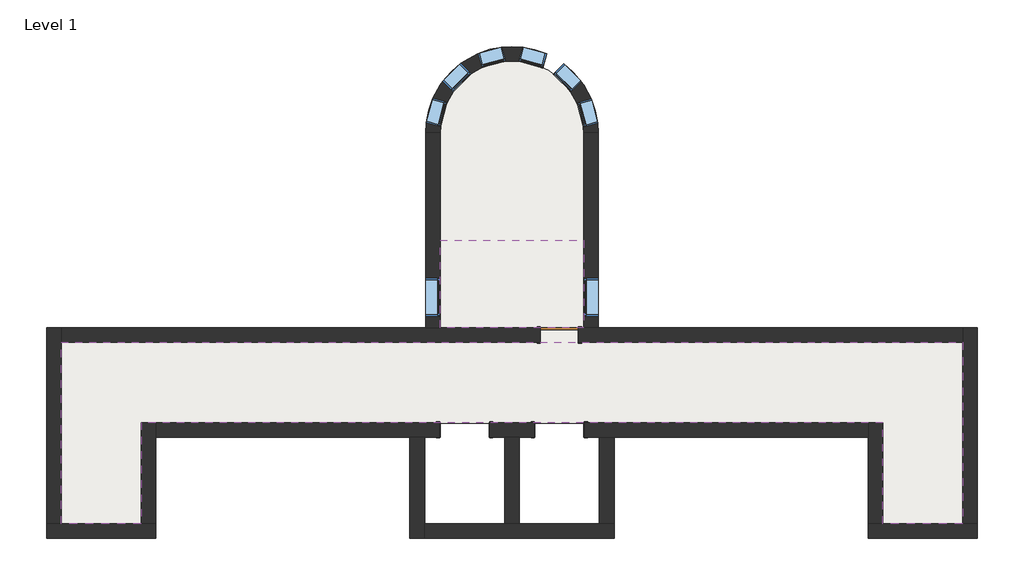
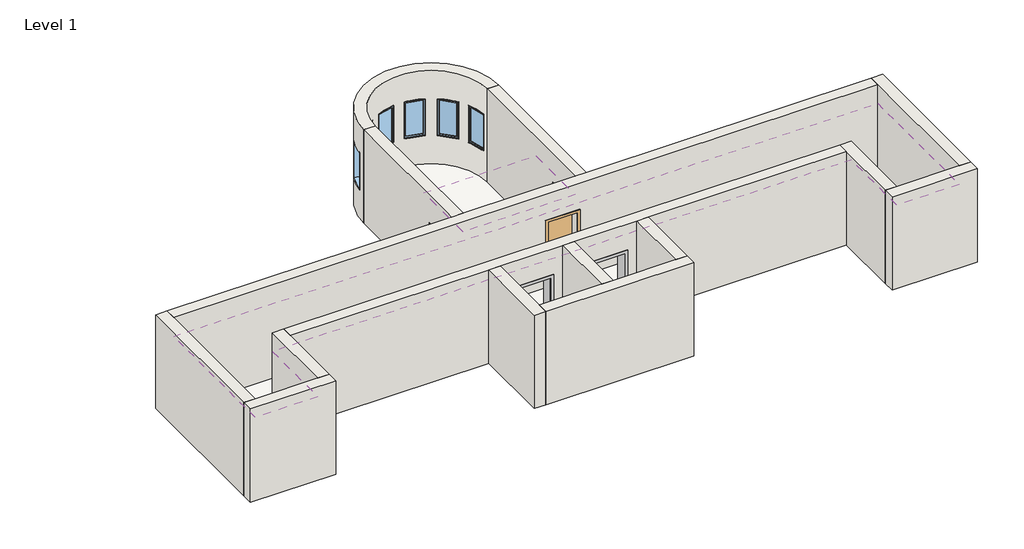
# One storey: 15 walls, 8 windows, 2 coverings, 2 proxies, 1 door, 1 slab.
"""IFC4 building model written with IfcOpenShell, lengths in millimetres."""

from ifc_helpers import new_model, si_unit, point, frame, frame_2d, origin, origin_with_axes, place, context, project, spatial, polyline, circle_curve, trimmed, segment, composite_curve, outline, extrude, faceted_brep, transform, mapped, element, save
from ifc_brep_helpers import plane_surface, cylinder_surface, revolved_surface, advanced_brep
from components import proxy_c3589814, door_632be17d, window_60baf983, window_15c49d37

model = new_model("IFC4")

# Units and contexts
model_context = context("Model", 3, world=origin())
ifc_project = project(units=[si_unit("LENGTHUNIT", "METRE", prefix="MILLI")], contexts=[model_context])

# Site, building, storey
site = spatial("IfcSite", under=ifc_project)
building = spatial("IfcBuilding", under=site)
storey = spatial("IfcBuildingStorey", under=building, Name="Level 1", Elevation=0.0)

# Proxies
placement = place(None, origin())
proxy_shape = proxy_c3589814(model_context)
element("IfcBuildingElementProxy", 1, Name="Opening-Cased : 48\" x 84\"", ObjectType="Opening-Cased : 48\" x 84\"", at=placement, inside=storey, context=model_context, shape_type="MappedRepresentation", body=[
    mapped(proxy_shape, transform((-7396.8036255, 2429.9758812, 0.0), x_axis=(-1.0, 0.0, 0.0), y_axis=(0.0, -1.0, 0.0), z_axis=(0.0, 0.0, 1.0))),
])
element("IfcBuildingElementProxy", 2, Name="Opening-Cased : 48\" x 84\"", ObjectType="Opening-Cased : 48\" x 84\"", at=placement, inside=storey, context=model_context, shape_type="MappedRepresentation", body=[
    mapped(proxy_shape, transform((-5110.8036255, 2429.9758812, 0.0), x_axis=(-1.0, 0.0, 0.0), y_axis=(0.0, -1.0, 0.0), z_axis=(0.0, 0.0, 1.0))),
])

# Coverings
element("IfcCovering", 3, ObjectType="GWB on Mtl. Stud", at=placement, inside=storey, context=model_context, shape_type="SweptSolid", body=[
    extrude(outline(polyline([(-4516.8274687, 4892.1883812), (-7974.4024687, 4892.1883812), (-7974.4024687, 7001.9758812), (-4516.8274687, 7001.9758812), (-4516.8274687, 4892.1883812)])), frame((0.0, 0.0, 2438.4), z_axis=(0.0, 0.0, 1.0), x_axis=(1.0, 0.0, 0.0)), (0.0, 0.0, 1.0), 107.95),
])
element("IfcCovering", 4, ObjectType="GWB on Mtl. Stud", at=placement, inside=storey, context=model_context, shape_type="SweptSolid", body=[
    extrude(outline(polyline([(2693.5975313, 167.7883812), (2693.5975313, 2606.1883812), (-15184.8274687, 2606.1883812), (-15184.8274687, 167.7883812), (-17118.4024687, 167.7883812), (-17118.4024687, 4539.7633812), (4627.1725313, 4539.7633812), (4627.1725313, 167.7883812), (2693.5975313, 167.7883812)])), frame((0.0, 0.0, 2438.4), z_axis=(0.0, 0.0, 1.0), x_axis=(1.0, 0.0, 0.0)), (0.0, 0.0, 1.0), 107.95),
])

# Door
door_shape = door_632be17d(model_context)
element("IfcDoor", 5, ObjectType="Single-Flush : 36\" x 84\"", at=placement, inside=storey, context=model_context, shape_type="MappedRepresentation", body=[
    mapped(door_shape, transform((-5102.6149687, 4715.9758812, 0.0), x_axis=(1.0, 0.0, 0.0), y_axis=(0.0, 1.0, 0.0), z_axis=(0.0, 0.0, 1.0))),
])

# Slab
element("IfcSlab", 6, ObjectType="LW Concrete on Metal Deck", at=placement, inside=storey, context=model_context, shape_type="SweptSolid", body=[
    extrude(outline(composite_curve([segment(polyline([(-4504.1274687, 9592.7758812), (-4504.1274687, 4552.4633812), (4627.1725313, 4552.4633812), (4627.1725313, 167.7883812), (2680.8975313, 167.7883812), (2680.8975313, 2593.4883812), (-15172.1274687, 2593.4883812), (-15172.1274687, 167.7883812), (-17118.4024687, 167.7883812), (-17118.4024687, 4552.4633812), (-7987.1024687, 4552.4633812), (-7987.1024687, 9592.7758812)]), True, "CONTINUOUS"), segment(trimmed(circle_curve(frame_2d((-6245.6149687, 9592.7758812)), 1741.4875), [point((-7987.1024687, 9592.7758812))], [point((-4504.1274687, 9592.7758812))], False, "CARTESIAN"), True, "CONTINUOUS")], self_intersect=False)), frame((0.0, 0.0, -104.775), z_axis=(0.0, 0.0, 1.0), x_axis=(1.0, 0.0, 0.0)), (0.0, 0.0, 1.0), 104.775),
])

# Walls
element("IfcWall", 7, ObjectType="Exterior - Brick on Mtl. Stud", at=placement, inside=storey, context=model_context, shape_type="Brep", body=[
    faceted_brep([(-8707.8274687, 2253.7633812, 0.0), (-8707.8274687, -184.6366188, 0.0), (-8707.8274687, -184.6366188, 3048.0), (-8707.8274687, 2253.7633812, 3048.0), (-8355.4024687, 2253.7633812, 0.0), (-8355.4024687, 2253.7633812, 3048.0), (-8355.4024687, 167.7883812, 3048.0), (-8355.4024687, -184.6366188, 3048.0), (-8355.4024687, -184.6366188, 0.0), (-8355.4024687, 167.7883812, 0.0)], [[[0, 1, 2, 3]], [[4, 5, 6, 7, 8, 9]], [[1, 0, 4, 9, 8]], [[3, 2, 7, 6, 5]], [[2, 1, 8, 7]], [[0, 3, 5, 4]]]),
])
element("IfcWall", 8, ObjectType="Exterior - Brick on Mtl. Stud", at=placement, inside=storey, context=model_context, shape_type="Brep", body=[
    faceted_brep([(-8355.4024687, -184.6366188, 0.0), (-3783.4024687, -184.6366188, 0.0), (-3783.4024687, -184.6366188, 3048.0), (-8355.4024687, -184.6366188, 3048.0), (-8355.4024687, 167.7883812, 0.0), (-8355.4024687, 167.7883812, 3048.0), (-6421.8274687, 167.7883812, 3048.0), (-6069.4024687, 167.7883812, 3048.0), (-4135.8274687, 167.7883812, 3048.0), (-3783.4024687, 167.7883812, 3048.0), (-3783.4024687, 167.7883812, 0.0), (-4135.8274687, 167.7883812, 0.0), (-6069.4024687, 167.7883812, 0.0), (-6421.8274687, 167.7883812, 0.0)], [[[0, 1, 2, 3]], [[4, 5, 6, 7, 8, 9, 10, 11, 12, 13]], [[1, 0, 4, 13, 12, 11, 10]], [[3, 2, 9, 8, 7, 6, 5]], [[2, 1, 10, 9]], [[0, 3, 5, 4]]]),
])
element("IfcWall", 9, ObjectType="Exterior - Brick on Mtl. Stud", at=placement, inside=storey, context=model_context, shape_type="SweptSolid", body=[
    extrude(outline(polyline([(-3783.4024687, 2253.7633812), (-3783.4024687, 167.7883812), (-4135.8274687, 167.7883812), (-4135.8274687, 2253.7633812), (-3783.4024687, 2253.7633812)])), origin_with_axes(), (0.0, 0.0, 1.0), 3048.0),
])
element("IfcWall", 10, ObjectType="Exterior - Brick on Mtl. Stud", at=placement, inside=storey, context=model_context, shape_type="Brep", body=[
    faceted_brep([(-6779.0149687, 2253.7633812, 0.0), (-6421.8274687, 2253.7633812, 0.0), (-6069.4024687, 2253.7633812, 0.0), (-5712.2149687, 2253.7633812, 0.0), (-5712.2149687, 2253.7633812, 2133.6), (-4493.0149687, 2253.7633812, 2133.6), (-4493.0149687, 2253.7633812, 0.0), (-4135.8274687, 2253.7633812, 0.0), (-3783.4024687, 2253.7633812, 0.0), (2341.1725313, 2253.7633812, 0.0), (2341.1725313, 2253.7633812, 3048.0), (-3783.4024687, 2253.7633812, 3048.0), (-4135.8274687, 2253.7633812, 3048.0), (-6069.4024687, 2253.7633812, 3048.0), (-6421.8274687, 2253.7633812, 3048.0), (-8355.4024687, 2253.7633812, 3048.0), (-8707.8274687, 2253.7633812, 3048.0), (-14832.4024687, 2253.7633812, 3048.0), (-14832.4024687, 2253.7633812, 0.0), (-8707.8274687, 2253.7633812, 0.0), (-8355.4024687, 2253.7633812, 0.0), (-7998.2149687, 2253.7633812, 0.0), (-7998.2149687, 2253.7633812, 2133.6), (-6779.0149687, 2253.7633812, 2133.6), (-5712.2149687, 2606.1883812, 2133.6), (-5712.2149687, 2606.1883812, 0.0), (-6779.0149687, 2606.1883812, 0.0), (-6779.0149687, 2606.1883812, 2133.6), (-7998.2149687, 2606.1883812, 2133.6), (-7998.2149687, 2606.1883812, 0.0), (-14832.4024687, 2606.1883812, 0.0), (-14832.4024687, 2606.1883812, 3048.0), (2341.1725313, 2606.1883812, 3048.0), (2341.1725313, 2606.1883812, 0.0), (-4493.0149687, 2606.1883812, 0.0), (-4493.0149687, 2606.1883812, 2133.6)], [[[0, 1, 2, 3, 4, 5, 6, 7, 8, 9, 10, 11, 12, 13, 14, 15, 16, 17, 18, 19, 20, 21, 22, 23]], [[24, 25, 26, 27, 28, 29, 30, 31, 32, 33, 34, 35]], [[30, 29, 21, 20, 19, 18]], [[26, 25, 3, 2, 1, 0]], [[34, 33, 9, 8, 7, 6]], [[17, 16, 15, 14, 13, 12, 11, 10, 32, 31]], [[10, 9, 33, 32]], [[18, 17, 31, 30]], [[0, 23, 27, 26]], [[22, 21, 29, 28]], [[23, 22, 28, 27]], [[6, 5, 35, 34]], [[4, 3, 25, 24]], [[5, 4, 24, 35]]]),
])
element("IfcWall", 11, ObjectType="Exterior - Brick on Mtl. Stud", at=placement, inside=storey, context=model_context, shape_type="SweptSolid", body=[
    extrude(outline(polyline([(9592.7758812, 0.0), (4892.1883812, 0.0), (4892.1883812, 3048.0), (9592.7758812, 3048.0), (9592.7758812, 0.0)]), holes=[polyline([(5173.1758812, 2133.6), (5173.1758812, 914.4), (6087.5758812, 914.4), (6087.5758812, 2133.6), (5173.1758812, 2133.6)])]), frame((-8326.8274687, 0.0, 0.0), z_axis=(1.0, 0.0, 0.0), x_axis=(0.0, 1.0, 0.0)), (0.0, 0.0, 1.0), 352.425),
])
element("IfcWall", 12, ObjectType="Exterior - Brick on Mtl. Stud", at=placement, inside=storey, context=model_context, shape_type="Brep", body=[
    faceted_brep([(4627.1725313, 4892.1883812, 0.0), (-4164.4024687, 4892.1883812, 0.0), (-4516.8274687, 4892.1883812, 0.0), (-4645.4149687, 4892.1883812, 0.0), (-4645.4149687, 4892.1883812, 2133.6), (-5559.8149687, 4892.1883812, 2133.6), (-5559.8149687, 4892.1883812, 0.0), (-7974.4024687, 4892.1883812, 0.0), (-8326.8274687, 4892.1883812, 0.0), (-17118.4024687, 4892.1883812, 0.0), (-17118.4024687, 4892.1883812, 3048.0), (-8326.8274687, 4892.1883812, 3048.0), (-7974.4024687, 4892.1883812, 3048.0), (-4516.8274687, 4892.1883812, 3048.0), (-4164.4024687, 4892.1883812, 3048.0), (4627.1725313, 4892.1883812, 3048.0), (-4645.4149687, 4539.7633812, 2133.6), (-4645.4149687, 4539.7633812, 0.0), (4627.1725313, 4539.7633812, 0.0), (4627.1725313, 4539.7633812, 3048.0), (-17118.4024687, 4539.7633812, 3048.0), (-17118.4024687, 4539.7633812, 0.0), (-5559.8149687, 4539.7633812, 0.0), (-5559.8149687, 4539.7633812, 2133.6)], [[[0, 1, 2, 3, 4, 5, 6, 7, 8, 9, 10, 11, 12, 13, 14, 15]], [[16, 17, 18, 19, 20, 21, 22, 23]], [[18, 17, 3, 2, 1, 0]], [[22, 21, 9, 8, 7, 6]], [[15, 14, 13, 12, 11, 10, 20, 19]], [[0, 15, 19, 18]], [[10, 9, 21, 20]], [[4, 3, 17, 16]], [[5, 4, 16, 23]], [[6, 5, 23, 22]]]),
])
element("IfcWall", 13, ObjectType="Exterior - Brick on Mtl. Stud", at=placement, inside=storey, context=model_context, shape_type="SweptSolid", body=[
    extrude(outline(polyline([(4892.1883812, 0.0), (4892.1883812, 3048.0), (9592.7758812, 3048.0), (9592.7758812, 0.0), (4892.1883812, 0.0)]), holes=[polyline([(6087.5758812, 2133.6), (5173.1758812, 2133.6), (5173.1758812, 914.4), (6087.5758812, 914.4), (6087.5758812, 2133.6)])]), frame((-4516.8274687, 0.0, 0.0), z_axis=(1.0, 0.0, 0.0), x_axis=(0.0, 1.0, 0.0)), (0.0, 0.0, 1.0), 352.425),
])
element("IfcWall", 14, ObjectType="Exterior - Brick on Mtl. Stud", at=placement, inside=storey, context=model_context, shape_type="AdvancedBrep", body=[
    advanced_brep(
    [(-4164.4024687, 9592.7758812, 3048.0), (-8326.8274687, 9592.7758812, 3048.0), (-7974.4024687, 9592.7758812, 3048.0), (-4516.8274687, 9592.7758812, 3048.0), (-8326.8274687, 9592.7758812, 0.0), (-4164.4024687, 9592.7758812, 0.0), (-4516.8274687, 9592.7758812, 0.0), (-7974.4024687, 9592.7758812, 0.0), (-8312.3878938, 9837.5107303, 914.4), (-8152.818084, 10425.8555575, 914.4), (-8152.818084, 10425.8555575, 2133.6), (-8312.3878938, 9837.5107303, 2133.6), (-7913.1254012, 10838.1089402, 2133.6), (-7913.1254012, 10838.1089402, 914.4), (-7480.7614786, 11267.8456019, 914.4), (-7480.7614786, 11267.8456019, 2133.6), (-7067.0548348, 11505.0211627, 2133.6), (-7067.0548348, 11505.0211627, 914.4), (-6477.7483633, 11661.0020674, 914.4), (-6477.7483633, 11661.0020674, 2133.6), (-6000.8801197, 11659.5488063, 2133.6), (-6000.8801197, 11659.5488063, 914.4), (-5412.5352924, 11499.9789965, 914.4), (-5412.5352924, 11499.9789965, 2133.6), (-5000.2819097, 11260.2863136, 2133.6), (-5000.2819097, 11260.2863136, 914.4), (-4570.545248, 10827.922391, 914.4), (-4570.545248, 10827.922391, 2133.6), (-4333.3696872, 10414.2157472, 2133.6), (-4333.3696872, 10414.2157472, 914.4), (-4177.3887825, 9824.9092757, 914.4), (-4177.3887825, 9824.9092757, 2133.6), (-7808.2019473, 10332.3893982, 914.4), (-7967.7717571, 9744.0445709, 914.4), (-7967.7717571, 9744.0445709, 2133.6), (-7808.2019473, 10332.3893982, 2133.6), (-7661.4121519, 10584.8568034, 914.4), (-7661.4121519, 10584.8568034, 2133.6), (-7229.0482293, 11014.5934652, 2133.6), (-7229.0482293, 11014.5934652, 914.4), (-6975.6908348, 11159.8417541, 2133.6), (-6386.3843633, 11315.8226588, 2133.6), (-6386.3843633, 11315.8226588, 914.4), (-6975.6908348, 11159.8417541, 914.4), (-6094.346279, 11314.9326695, 2133.6), (-5506.0014517, 11155.3628598, 2133.6), (-5506.0014517, 11155.3628598, 914.4), (-6094.346279, 11314.9326695, 914.4), (-5253.5340465, 11008.5730643, 2133.6), (-4823.7973847, 10576.2091417, 2133.6), (-4823.7973847, 10576.2091417, 914.4), (-5253.5340465, 11008.5730643, 914.4), (-4678.5490959, 10322.8517473, 2133.6), (-4522.5681912, 9733.5452757, 2133.6), (-4522.5681912, 9733.5452757, 914.4), (-4678.5490959, 10322.8517473, 914.4)],
    [
        (0, 1, circle_curve(frame((-6245.6149687, 9592.7758812, 3048.0), z_axis=(0.0, 0.0, 1.0), x_axis=(1.0, 0.0, 0.0)), 2081.2125)),
        (1, 2),
        (2, 3, circle_curve(frame((-6245.6149687, 9592.7758812, 3048.0), z_axis=(0.0, 0.0, -1.0), x_axis=(1.0, 0.0, 0.0)), 1728.7875)),
        (3, 0),
        (4, 5, circle_curve(frame((-6245.6149687, 9592.7758812, 0.0), z_axis=(0.0, 0.0, -1.0), x_axis=(1.0, 0.0, 0.0)), 2081.2125)),
        (5, 6),
        (6, 7, circle_curve(frame((-6245.6149687, 9592.7758812, 0.0), z_axis=(0.0, 0.0, 1.0), x_axis=(1.0, 0.0, 0.0)), 1728.7875)),
        (7, 4),
        (0, 5),
        (4, 1),
        (8, 9, circle_curve(frame((-6245.6149687, 9592.7758812, 914.4), z_axis=(0.0, 0.0, -1.0), x_axis=(1.0, 0.0, 0.0)), 2081.2125)),
        (9, 10),
        (10, 11, circle_curve(frame((-6245.6149687, 9592.7758812, 2133.6), z_axis=(0.0, 0.0, 1.0), x_axis=(1.0, 0.0, 0.0)), 2081.2125)),
        (11, 8),
        (12, 13),
        (13, 14, circle_curve(frame((-6245.6149687, 9592.7758812, 914.4), z_axis=(0.0, 0.0, -1.0), x_axis=(1.0, 0.0, 0.0)), 2081.2125)),
        (14, 15),
        (15, 12, circle_curve(frame((-6245.6149687, 9592.7758812, 2133.6), z_axis=(0.0, 0.0, 1.0), x_axis=(1.0, 0.0, 0.0)), 2081.2125)),
        (16, 17),
        (17, 18, circle_curve(frame((-6245.6149687, 9592.7758812, 914.4), z_axis=(0.0, 0.0, -1.0), x_axis=(1.0, 0.0, 0.0)), 2081.2125)),
        (18, 19),
        (19, 16, circle_curve(frame((-6245.6149687, 9592.7758812, 2133.6), z_axis=(0.0, 0.0, 1.0), x_axis=(1.0, 0.0, 0.0)), 2081.2125)),
        (20, 21),
        (21, 22, circle_curve(frame((-6245.6149687, 9592.7758812, 914.4), z_axis=(0.0, 0.0, -1.0), x_axis=(1.0, 0.0, 0.0)), 2081.2125)),
        (22, 23),
        (23, 20, circle_curve(frame((-6245.6149687, 9592.7758812, 2133.6), z_axis=(0.0, 0.0, 1.0), x_axis=(1.0, 0.0, 0.0)), 2081.2125)),
        (24, 25),
        (25, 26, circle_curve(frame((-6245.6149687, 9592.7758812, 914.4), z_axis=(0.0, 0.0, -1.0), x_axis=(1.0, 0.0, 0.0)), 2081.2125)),
        (26, 27),
        (27, 24, circle_curve(frame((-6245.6149687, 9592.7758812, 2133.6), z_axis=(0.0, 0.0, 1.0), x_axis=(1.0, 0.0, 0.0)), 2081.2125)),
        (28, 29),
        (29, 30, circle_curve(frame((-6245.6149687, 9592.7758812, 914.4), z_axis=(0.0, 0.0, -1.0), x_axis=(1.0, 0.0, 0.0)), 2081.2125)),
        (30, 31),
        (31, 28, circle_curve(frame((-6245.6149687, 9592.7758812, 2133.6), z_axis=(0.0, 0.0, 1.0), x_axis=(1.0, 0.0, 0.0)), 2081.2125)),
        (7, 2),
        (6, 3),
        (32, 33, circle_curve(frame((-6245.6149687, 9592.7758812, 914.4), z_axis=(0.0, 0.0, 1.0), x_axis=(1.0, 0.0, 0.0)), 1728.7875)),
        (33, 34),
        (34, 35, circle_curve(frame((-6245.6149687, 9592.7758812, 2133.6), z_axis=(0.0, 0.0, -1.0), x_axis=(1.0, 0.0, 0.0)), 1728.7875)),
        (35, 32),
        (36, 37),
        (37, 38, circle_curve(frame((-6245.6149687, 9592.7758812, 2133.6), z_axis=(0.0, 0.0, -1.0), x_axis=(1.0, 0.0, 0.0)), 1728.7875)),
        (38, 39),
        (39, 36, circle_curve(frame((-6245.6149687, 9592.7758812, 914.4), z_axis=(0.0, 0.0, 1.0), x_axis=(1.0, 0.0, 0.0)), 1728.7875)),
        (40, 41, circle_curve(frame((-6245.6149687, 9592.7758812, 2133.6), z_axis=(0.0, 0.0, -1.0), x_axis=(1.0, 0.0, 0.0)), 1728.7875)),
        (41, 42),
        (42, 43, circle_curve(frame((-6245.6149687, 9592.7758812, 914.4), z_axis=(0.0, 0.0, 1.0), x_axis=(1.0, 0.0, 0.0)), 1728.7875)),
        (43, 40),
        (44, 45, circle_curve(frame((-6245.6149687, 9592.7758812, 2133.6), z_axis=(0.0, 0.0, -1.0), x_axis=(1.0, 0.0, 0.0)), 1728.7875)),
        (45, 46),
        (46, 47, circle_curve(frame((-6245.6149687, 9592.7758812, 914.4), z_axis=(0.0, 0.0, 1.0), x_axis=(1.0, 0.0, 0.0)), 1728.7875)),
        (47, 44),
        (48, 49, circle_curve(frame((-6245.6149687, 9592.7758812, 2133.6), z_axis=(0.0, 0.0, -1.0), x_axis=(1.0, 0.0, 0.0)), 1728.7875)),
        (49, 50),
        (50, 51, circle_curve(frame((-6245.6149687, 9592.7758812, 914.4), z_axis=(0.0, 0.0, 1.0), x_axis=(1.0, 0.0, 0.0)), 1728.7875)),
        (51, 48),
        (52, 53, circle_curve(frame((-6245.6149687, 9592.7758812, 2133.6), z_axis=(0.0, 0.0, -1.0), x_axis=(1.0, 0.0, 0.0)), 1728.7875)),
        (53, 54),
        (54, 55, circle_curve(frame((-6245.6149687, 9592.7758812, 914.4), z_axis=(0.0, 0.0, 1.0), x_axis=(1.0, 0.0, 0.0)), 1728.7875)),
        (55, 52),
        (33, 8),
        (11, 34),
        (32, 9),
        (35, 10),
        (12, 37),
        (36, 13),
        (39, 14),
        (38, 15),
        (16, 40),
        (43, 17),
        (42, 18),
        (41, 19),
        (20, 44),
        (47, 21),
        (46, 22),
        (45, 23),
        (24, 48),
        (51, 25),
        (50, 26),
        (49, 27),
        (28, 52),
        (55, 29),
        (54, 30),
        (53, 31),
    ],
    [
        plane_surface(frame((-4164.4024687, 9592.7758812, 3048.0), z_axis=(0.0, 0.0, 1.0), x_axis=(0.0, 1.0, 0.0))),
        plane_surface(frame((-4164.4024687, 9592.7758812, 0.0), z_axis=(0.0, 0.0, -1.0), x_axis=(0.0, -1.0, 0.0))),
        cylinder_surface(frame((-6245.6149687, 9592.7758812, 0.0), z_axis=(0.0, 0.0, 1.0), x_axis=(1.0, 0.0, 0.0)), 2081.2125),
        plane_surface(frame((-8326.8274687, 9592.7758812, 3048.0), z_axis=(0.0, -1.0, 0.0), x_axis=(0.0, 0.0, -1.0))),
        revolved_surface(polyline([(-4516.827468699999, 9592.7758812, 0.0), (-4516.827468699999, 9592.7758812, 3048.0)]), (-6245.6149687, 9592.7758812, 0.0), (0.0, 0.0, -1.0)),
        plane_surface(frame((-4516.8274687, 9592.7758812, 3048.0), z_axis=(0.0, -1.0, 0.0), x_axis=(0.0, 0.0, -1.0))),
        plane_surface(frame((-6841.5258256, 9438.5862058, 2133.6), z_axis=(0.26176149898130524, 0.9651325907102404, 0.0), x_axis=(-0.9651325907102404, 0.26176149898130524, 0.0))),
        plane_surface(frame((-6841.5258256, 9438.5862058, 914.4), z_axis=(0.0, 0.0, 1.0000000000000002), x_axis=(-0.9651325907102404, 0.26176149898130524, 0.0))),
        plane_surface(frame((-6681.9560158, 10026.9310331, 914.4), z_axis=(-0.2617614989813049, -0.9651325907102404, 0.0), x_axis=(-0.9651325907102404, 0.2617614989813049, 0.0))),
        plane_surface(frame((-6681.9560158, 10026.9310331, 2133.6), z_axis=(0.0, 0.0, -1.0), x_axis=(-0.9651325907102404, 0.2617614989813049, 0.0))),
        plane_surface(frame((-6838.7837468, 9757.1991337, 2133.6), z_axis=(0.7092584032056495, 0.70494859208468, 0.0), x_axis=(-0.70494859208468, 0.7092584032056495, 0.0))),
        plane_surface(frame((-6838.7837468, 9757.1991337, 914.4), z_axis=(0.0, 0.0, 1.0), x_axis=(-0.7049485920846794, 0.7092584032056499, 0.0))),
        plane_surface(frame((-6406.4198242, 10186.9357955, 914.4), z_axis=(-0.7092584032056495, -0.70494859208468, 0.0), x_axis=(-0.70494859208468, 0.7092584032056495, 0.0))),
        plane_surface(frame((-6406.4198242, 10186.9357955, 2133.6), z_axis=(0.0, 0.0, -1.0), x_axis=(-0.70494859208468, 0.7092584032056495, 0.0))),
        plane_surface(frame((-7067.0548348, 11505.0211627, 2133.6), z_axis=(0.9667100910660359, 0.25587418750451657, 0.0), x_axis=(0.25587418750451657, -0.9667100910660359, 0.0))),
        plane_surface(frame((-7067.0548348, 11505.0211627, 914.4), z_axis=(0.0, 0.0, 1.0), x_axis=(0.2558741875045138, -0.9667100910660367, 0.0))),
        plane_surface(frame((-6477.7483633, 11661.0020674, 914.4), z_axis=(-0.9667100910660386, -0.2558741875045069, 0.0), x_axis=(0.2558741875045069, -0.9667100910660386, 0.0))),
        plane_surface(frame((-6477.7483633, 11661.0020674, 2133.6), z_axis=(0.0, 0.0, -1.0000000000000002), x_axis=(0.2558741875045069, -0.9667100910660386, 0.0))),
        plane_surface(frame((-6000.8801197, 11659.5488063, 2133.6), z_axis=(0.9651325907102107, -0.2617614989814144, 0.0), x_axis=(-0.2617614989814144, -0.9651325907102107, 0.0))),
        plane_surface(frame((-6000.8801197, 11659.5488063, 914.4), z_axis=(0.0, 0.0, 1.0000000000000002), x_axis=(-0.26176149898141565, -0.9651325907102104, 0.0))),
        plane_surface(frame((-5412.5352924, 11499.9789965, 914.4), z_axis=(-0.9651325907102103, 0.26176149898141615, 0.0), x_axis=(-0.26176149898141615, -0.9651325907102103, 0.0))),
        plane_surface(frame((-5412.5352924, 11499.9789965, 2133.6), z_axis=(0.0, 0.0, -1.0), x_axis=(-0.26176149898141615, -0.9651325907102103, 0.0))),
        plane_surface(frame((-5000.2819097, 11260.2863136, 2133.6), z_axis=(0.7049485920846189, -0.7092584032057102, 0.0), x_axis=(-0.7092584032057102, -0.7049485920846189, 0.0))),
        plane_surface(frame((-5000.2819097, 11260.2863136, 914.4), z_axis=(0.0, 0.0, 1.0000000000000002), x_axis=(-0.7092584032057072, -0.7049485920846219, 0.0))),
        plane_surface(frame((-4570.545248, 10827.922391, 914.4), z_axis=(-0.7049485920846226, 0.7092584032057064, 0.0), x_axis=(-0.7092584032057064, -0.7049485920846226, 0.0))),
        plane_surface(frame((-4570.545248, 10827.922391, 2133.6), z_axis=(0.0, 0.0, -1.0), x_axis=(-0.7092584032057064, -0.7049485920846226, 0.0))),
        plane_surface(frame((-4333.3696872, 10414.2157472, 2133.6), z_axis=(0.2558741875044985, -0.9667100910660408, 0.0), x_axis=(-0.9667100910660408, -0.2558741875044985, 0.0))),
        plane_surface(frame((-4333.3696872, 10414.2157472, 914.4), z_axis=(0.0, 0.0, 1.0), x_axis=(-0.9667100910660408, -0.2558741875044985, 0.0))),
        plane_surface(frame((-4177.3887825, 9824.9092757, 914.4), z_axis=(-0.2558741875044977, 0.966710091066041, 0.0), x_axis=(-0.966710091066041, -0.2558741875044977, 0.0))),
        plane_surface(frame((-4177.3887825, 9824.9092757, 2133.6), z_axis=(0.0, 0.0, -1.0), x_axis=(-0.966710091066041, -0.2558741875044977, 0.0))),
    ],
    [
        (0, [[1, 2, 3, 4]]),
        (1, [[5, 6, 7, 8]]),
        (2, [[-1, 9, -5, 10], [11, 12, 13, 14], [15, 16, 17, 18], [19, 20, 21, 22], [23, 24, 25, 26], [27, 28, 29, 30], [31, 32, 33, 34]]),
        (3, [[-2, -10, -8, 35]]),
        (4, [[-3, -35, -7, 36], [37, 38, 39, 40], [41, 42, 43, 44], [45, 46, 47, 48], [49, 50, 51, 52], [53, 54, 55, 56], [57, 58, 59, 60]]),
        (5, [[-4, -36, -6, -9]]),
        (6, [[61, -14, 62, -38]]),
        (7, [[-61, -37, 63, -11]]),
        (8, [[-63, -40, 64, -12]]),
        (9, [[-64, -39, -62, -13]]),
        (10, [[65, -41, 66, -15]]),
        (11, [[-66, -44, 67, -16]]),
        (12, [[-67, -43, 68, -17]]),
        (13, [[-65, -18, -68, -42]]),
        (14, [[-19, 69, -48, 70]]),
        (15, [[-20, -70, -47, 71]]),
        (16, [[-21, -71, -46, 72]]),
        (17, [[-22, -72, -45, -69]]),
        (18, [[-23, 73, -52, 74]]),
        (19, [[-24, -74, -51, 75]]),
        (20, [[-25, -75, -50, 76]]),
        (21, [[-26, -76, -49, -73]]),
        (22, [[-27, 77, -56, 78]]),
        (23, [[-28, -78, -55, 79]]),
        (24, [[-29, -79, -54, 80]]),
        (25, [[-30, -80, -53, -77]]),
        (26, [[-31, 81, -60, 82]]),
        (27, [[-32, -82, -59, 83]]),
        (28, [[-33, -83, -58, 84]]),
        (29, [[-34, -84, -57, -81]]),
    ],
),
])
element("IfcWall", 15, ObjectType="Exterior - Brick on Mtl. Stud", at=placement, inside=storey, context=model_context, shape_type="SweptSolid", body=[
    extrude(outline(polyline([(-6069.4024687, 2253.7633812), (-6069.4024687, 167.7883812), (-6421.8274687, 167.7883812), (-6421.8274687, 2253.7633812), (-6069.4024687, 2253.7633812)])), origin_with_axes(), (0.0, 0.0, 1.0), 3048.0),
])
element("IfcWall", 16, ObjectType="Exterior - Brick on Mtl. Stud", at=placement, inside=storey, context=model_context, shape_type="Brep", body=[
    faceted_brep([(4979.5975313, 167.7883812, 0.0), (4627.1725313, 167.7883812, 0.0), (2693.5975313, 167.7883812, 0.0), (2341.1725313, 167.7883812, 0.0), (2341.1725313, 167.7883812, 3048.0), (2693.5975313, 167.7883812, 3048.0), (4627.1725313, 167.7883812, 3048.0), (4979.5975313, 167.7883812, 3048.0), (4979.5975313, -184.6366188, 0.0), (4979.5975313, -184.6366188, 3048.0), (2341.1725313, -184.6366188, 3048.0), (2341.1725313, -184.6366188, 0.0)], [[[0, 1, 2, 3, 4, 5, 6, 7]], [[8, 9, 10, 11]], [[3, 2, 1, 0, 8, 11]], [[7, 6, 5, 4, 10, 9]], [[4, 3, 11, 10]], [[0, 7, 9, 8]]]),
])
element("IfcWall", 17, ObjectType="Exterior - Brick on Mtl. Stud", at=placement, inside=storey, context=model_context, shape_type="Brep", body=[
    faceted_brep([(2341.1725313, 2606.1883812, 0.0), (2341.1725313, 2253.7633812, 0.0), (2341.1725313, 167.7883812, 0.0), (2341.1725313, 167.7883812, 3048.0), (2341.1725313, 2253.7633812, 3048.0), (2341.1725313, 2606.1883812, 3048.0), (2693.5975313, 2606.1883812, 0.0), (2693.5975313, 2606.1883812, 3048.0), (2693.5975313, 167.7883812, 3048.0), (2693.5975313, 167.7883812, 0.0)], [[[0, 1, 2, 3, 4, 5]], [[6, 7, 8, 9]], [[2, 1, 0, 6, 9]], [[5, 4, 3, 8, 7]], [[0, 5, 7, 6]], [[3, 2, 9, 8]]]),
])
element("IfcWall", 18, ObjectType="Exterior - Brick on Mtl. Stud", at=placement, inside=storey, context=model_context, shape_type="Brep", body=[
    faceted_brep([(4979.5975313, 167.7883812, 0.0), (4979.5975313, 4892.1883812, 0.0), (4979.5975313, 4892.1883812, 3048.0), (4979.5975313, 167.7883812, 3048.0), (4627.1725313, 167.7883812, 0.0), (4627.1725313, 167.7883812, 3048.0), (4627.1725313, 4539.7633812, 3048.0), (4627.1725313, 4892.1883812, 3048.0), (4627.1725313, 4892.1883812, 0.0), (4627.1725313, 4539.7633812, 0.0)], [[[0, 1, 2, 3]], [[4, 5, 6, 7, 8, 9]], [[1, 0, 4, 9, 8]], [[3, 2, 7, 6, 5]], [[2, 1, 8, 7]], [[0, 3, 5, 4]]]),
])
element("IfcWall", 19, ObjectType="Exterior - Brick on Mtl. Stud", at=placement, inside=storey, context=model_context, shape_type="Brep", body=[
    faceted_brep([(-17470.8274687, -184.6366188, 0.0), (-14832.4024687, -184.6366188, 0.0), (-14832.4024687, -184.6366188, 3048.0), (-17470.8274687, -184.6366188, 3048.0), (-17470.8274687, 167.7883812, 0.0), (-17470.8274687, 167.7883812, 3048.0), (-17118.4024687, 167.7883812, 3048.0), (-15184.8274687, 167.7883812, 3048.0), (-14832.4024687, 167.7883812, 3048.0), (-14832.4024687, 167.7883812, 0.0), (-15184.8274687, 167.7883812, 0.0), (-17118.4024687, 167.7883812, 0.0)], [[[0, 1, 2, 3]], [[4, 5, 6, 7, 8, 9, 10, 11]], [[1, 0, 4, 11, 10, 9]], [[3, 2, 8, 7, 6, 5]], [[2, 1, 9, 8]], [[0, 3, 5, 4]]]),
])
element("IfcWall", 20, ObjectType="Exterior - Brick on Mtl. Stud", at=placement, inside=storey, context=model_context, shape_type="Brep", body=[
    faceted_brep([(-15184.8274687, 2606.1883812, 0.0), (-15184.8274687, 167.7883812, 0.0), (-15184.8274687, 167.7883812, 3048.0), (-15184.8274687, 2606.1883812, 3048.0), (-14832.4024687, 2606.1883812, 0.0), (-14832.4024687, 2606.1883812, 3048.0), (-14832.4024687, 2253.7633812, 3048.0), (-14832.4024687, 167.7883812, 3048.0), (-14832.4024687, 167.7883812, 0.0), (-14832.4024687, 2253.7633812, 0.0)], [[[0, 1, 2, 3]], [[4, 5, 6, 7, 8, 9]], [[1, 0, 4, 9, 8]], [[3, 2, 7, 6, 5]], [[0, 3, 5, 4]], [[2, 1, 8, 7]]]),
])
element("IfcWall", 21, ObjectType="Exterior - Brick on Mtl. Stud", at=placement, inside=storey, context=model_context, shape_type="Brep", body=[
    faceted_brep([(-17118.4024687, 167.7883812, 0.0), (-17118.4024687, 4539.7633812, 0.0), (-17118.4024687, 4892.1883812, 0.0), (-17118.4024687, 4892.1883812, 3048.0), (-17118.4024687, 4539.7633812, 3048.0), (-17118.4024687, 167.7883812, 3048.0), (-17470.8274687, 167.7883812, 0.0), (-17470.8274687, 167.7883812, 3048.0), (-17470.8274687, 4892.1883812, 3048.0), (-17470.8274687, 4892.1883812, 0.0)], [[[0, 1, 2, 3, 4, 5]], [[6, 7, 8, 9]], [[2, 1, 0, 6, 9]], [[5, 4, 3, 8, 7]], [[3, 2, 9, 8]], [[0, 5, 7, 6]]]),
])

# Windows
window_shape = window_60baf983(model_context)
element("IfcWindow", 22, ObjectType="Fixed : 24\" x 48\"", at=placement, inside=storey, context=model_context, shape_type="MappedRepresentation", body=[
    mapped(window_shape, transform((-8072.5076754, 10048.7859441, 0.0), x_axis=(-0.2617614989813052, -0.9651325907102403, 0.0), y_axis=(0.9651325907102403, -0.2617614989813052, 0.0), z_axis=(0.0, 0.0, 1.0))),
])
element("IfcWindow", 23, ObjectType="Fixed : 24\" x 48\"", at=placement, inside=storey, context=model_context, shape_type="MappedRepresentation", body=[
    mapped(window_shape, transform((-7599.7454312, 10901.1385333, 0.0), x_axis=(-0.7092584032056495, -0.7049485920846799, 0.0), y_axis=(0.7049485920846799, -0.7092584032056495, 0.0), z_axis=(0.0, 0.0, 1.0))),
])
element("IfcWindow", 24, ObjectType="Fixed : 24\" x 48\"", at=placement, inside=storey, context=model_context, shape_type="MappedRepresentation", body=[
    mapped(window_shape, transform((-6764.1450232, 11402.9164066, 0.0), x_axis=(-0.96671009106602, -0.25587418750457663, 0.0), y_axis=(0.25587418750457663, -0.96671009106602, 0.0), z_axis=(0.0, 0.0, 1.0))),
])
element("IfcWindow", 25, ObjectType="Fixed : 24\" x 48\"", at=placement, inside=storey, context=model_context, shape_type="MappedRepresentation", body=[
    mapped(window_shape, transform((-5789.6049059, 11419.6685878, 0.0), x_axis=(-0.9651325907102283, 0.2617614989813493, 0.0), y_axis=(-0.2617614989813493, -0.9651325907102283, 0.0), z_axis=(0.0, 0.0, 1.0))),
])
element("IfcWindow", 26, ObjectType="Fixed : 24\" x 48\"", at=placement, inside=storey, context=model_context, shape_type="MappedRepresentation", body=[
    mapped(window_shape, transform((-4937.2523166, 10946.9063437, 0.0), x_axis=(-0.7049485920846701, 0.7092584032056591, 0.0), y_axis=(-0.7092584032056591, -0.7049485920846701, 0.0), z_axis=(0.0, 0.0, 1.0))),
])
element("IfcWindow", 27, ObjectType="Fixed : 24\" x 48\"", at=placement, inside=storey, context=model_context, shape_type="MappedRepresentation", body=[
    mapped(window_shape, transform((-4435.4744434, 10111.3059357, 0.0), x_axis=(-0.25587418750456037, 0.9667100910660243, 0.0), y_axis=(-0.9667100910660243, -0.25587418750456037, 0.0), z_axis=(0.0, 0.0, 1.0))),
])
window_2_shape = window_15c49d37(model_context)
element("IfcWindow", 28, ObjectType="Fixed : 36\" x 48\"", at=placement, inside=storey, context=model_context, shape_type="MappedRepresentation", body=[
    mapped(window_2_shape, transform((-8150.6149687, 5592.2758812, 0.0), x_axis=(0.0, -1.0, 0.0), y_axis=(1.0, 0.0, 0.0), z_axis=(0.0, 0.0, 1.0))),
])
element("IfcWindow", 29, ObjectType="Fixed : 36\" x 48\"", at=placement, inside=storey, context=model_context, shape_type="MappedRepresentation", body=[
    mapped(window_2_shape, transform((-4340.6149687, 5668.4758812, 0.0), x_axis=(0.0, 1.0, 0.0), y_axis=(-1.0, 0.0, 0.0), z_axis=(0.0, 0.0, 1.0))),
])

save(model, "model.ifc")
